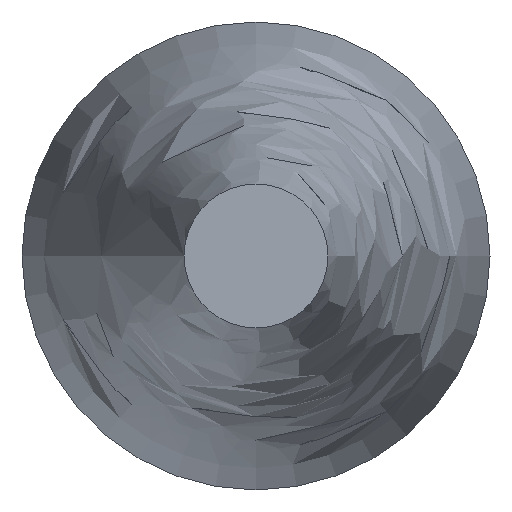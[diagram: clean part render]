
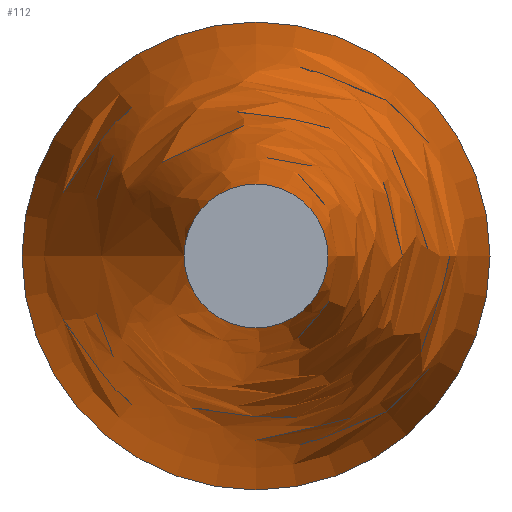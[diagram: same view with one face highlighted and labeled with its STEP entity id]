
A CAD part, left-side view. The second image highlights one B-rep face of the part: STEP entity #112.
In plain terms, the highlighted face is a revolution surface.
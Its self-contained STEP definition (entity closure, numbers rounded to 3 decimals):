
#68=CARTESIAN_POINT('',(60.,12.5,0.0));
#69=CARTESIAN_POINT('',(83.132,17.914,0.0));
#70=CARTESIAN_POINT('',(128.445,23.198,0.0));
#71=CARTESIAN_POINT('',(181.83,37.961,0.0));
#72=CARTESIAN_POINT('',(250.192,44.075,0.0));
#73=CARTESIAN_POINT('',(300.168,33.007,0.0));
#74=CARTESIAN_POINT('',(349.177,24.028,0.0));
#75=CARTESIAN_POINT('',(410.807,19.225,0.0));
#76=CARTESIAN_POINT('',(452.467,16.23,0.0));
#77=CARTESIAN_POINT('',(498.788,5.187,0.0));
#78=CARTESIAN_POINT('',(496.0,0.0,0.0));
#79=B_SPLINE_CURVE_WITH_KNOTS('',4,(#68,#69,#70,#71,#72,#73,#74,#75,#76,#77,#78),.UNSPECIFIED.,.F.,.U.,(5,1,1,1,1,1,1,5),(0.0,0.262,0.371,0.48,0.59,0.699,0.806,1.0),.UNSPECIFIED.);
#80=CARTESIAN_POINT('',(60.0,0.0,0.0));
#81=DIRECTION('',(1.0,0.0,0.0));
#82=AXIS1_PLACEMENT('',#80,#81);
#83=SURFACE_OF_REVOLUTION('',#79,#82);
#84=CARTESIAN_POINT('',(496.0,0.0,0.0));
#85=VERTEX_POINT('',#84);
#86=CARTESIAN_POINT('',(60.0,12.5,0.0));
#87=VERTEX_POINT('',#86);
#88=CARTESIAN_POINT('',(496.0,0.0,0.0));
#89=CARTESIAN_POINT('',(498.788,5.187,0.0));
#90=CARTESIAN_POINT('',(452.467,16.23,0.0));
#91=CARTESIAN_POINT('',(410.807,19.225,0.0));
#92=CARTESIAN_POINT('',(349.177,24.028,0.0));
#93=CARTESIAN_POINT('',(300.168,33.007,0.0));
#94=CARTESIAN_POINT('',(250.192,44.075,0.0));
#95=CARTESIAN_POINT('',(181.83,37.961,0.0));
#96=CARTESIAN_POINT('',(128.445,23.198,0.0));
#97=CARTESIAN_POINT('',(83.132,17.914,0.0));
#98=CARTESIAN_POINT('',(60.,12.5,0.0));
#99=B_SPLINE_CURVE_WITH_KNOTS('',4,(#88,#89,#90,#91,#92,#93,#94,#95,#96,#97,#98),.UNSPECIFIED.,.F.,.U.,(5,1,1,1,1,1,1,5),(0.0,0.194,0.301,0.41,0.52,0.629,0.738,1.0),.UNSPECIFIED.);
#100=EDGE_CURVE('',#85,#87,#99,.T.);
#101=ORIENTED_EDGE('',*,*,#100,.T.);
#102=CARTESIAN_POINT('',(60.0,0.0,0.0));
#103=DIRECTION('',(-1.0,0.0,0.0));
#104=DIRECTION('',(0.0,1.0,0.0));
#105=AXIS2_PLACEMENT_3D('',#102,#103,#104);
#106=CIRCLE('',#105,12.5);
#107=EDGE_CURVE('',#87,#87,#106,.T.);
#108=ORIENTED_EDGE('',*,*,#107,.F.);
#109=ORIENTED_EDGE('',*,*,#100,.F.);
#110=EDGE_LOOP('',(#101,#108,#109));
#111=FACE_OUTER_BOUND('',#110,.T.);
#112=ADVANCED_FACE('',(#111),#83,.T.);
